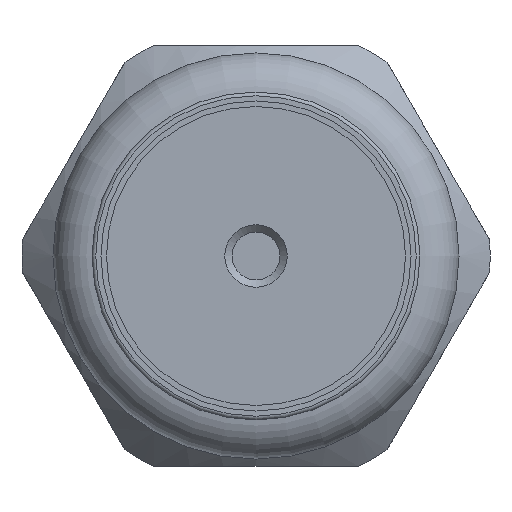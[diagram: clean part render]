
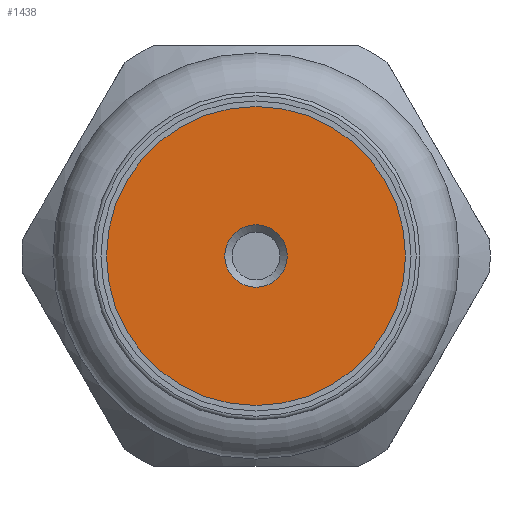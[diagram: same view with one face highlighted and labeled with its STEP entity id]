
A CAD part, left-side view. The second image highlights one B-rep face of the part: STEP entity #1438.
In plain terms, the highlighted planar face has unit normal (-1, 0, 0).
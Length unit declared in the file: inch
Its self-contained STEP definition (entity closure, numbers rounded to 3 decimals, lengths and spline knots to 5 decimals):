
#44=FACE_BOUND('',#264,.T.);
#171=FACE_OUTER_BOUND('',#263,.T.);
#263=EDGE_LOOP('',(#1239,#1240));
#264=EDGE_LOOP('',(#1241,#1242));
#496=CIRCLE('',#1657,0.39862);
#497=CIRCLE('',#1658,0.39862);
#498=CIRCLE('',#1660,0.08334);
#499=CIRCLE('',#1661,0.08334);
#642=VERTEX_POINT('',#2694);
#643=VERTEX_POINT('',#2695);
#644=VERTEX_POINT('',#2700);
#645=VERTEX_POINT('',#2701);
#841=EDGE_CURVE('',#642,#643,#496,.T.);
#842=EDGE_CURVE('',#643,#642,#497,.T.);
#844=EDGE_CURVE('',#644,#645,#498,.T.);
#845=EDGE_CURVE('',#645,#644,#499,.T.);
#1239=ORIENTED_EDGE('',*,*,#841,.T.);
#1240=ORIENTED_EDGE('',*,*,#842,.T.);
#1241=ORIENTED_EDGE('',*,*,#844,.F.);
#1242=ORIENTED_EDGE('',*,*,#845,.F.);
#1283=PLANE('',#1659);
#1438=ADVANCED_FACE('',(#171,#44),#1283,.T.);
#1657=AXIS2_PLACEMENT_3D('',#2696,#2106,#2107);
#1658=AXIS2_PLACEMENT_3D('',#2697,#2108,#2109);
#1659=AXIS2_PLACEMENT_3D('',#2699,#2111,#2112);
#1660=AXIS2_PLACEMENT_3D('',#2702,#2113,#2114);
#1661=AXIS2_PLACEMENT_3D('',#2703,#2115,#2116);
#2106=DIRECTION('center_axis',(-1.,0.,0.));
#2107=DIRECTION('ref_axis',(0.,0.866,-0.5));
#2108=DIRECTION('center_axis',(-1.,0.,0.));
#2109=DIRECTION('ref_axis',(0.,0.866,-0.5));
#2111=DIRECTION('center_axis',(-1.,0.,0.));
#2112=DIRECTION('ref_axis',(0.,0.866,-0.5));
#2113=DIRECTION('center_axis',(-1.,0.,0.));
#2114=DIRECTION('ref_axis',(0.,0.866,-0.5));
#2115=DIRECTION('center_axis',(-1.,0.,0.));
#2116=DIRECTION('ref_axis',(0.,0.866,-0.5));
#2694=CARTESIAN_POINT('',(-3.81602,-0.79102,0.17696));
#2695=CARTESIAN_POINT('',(-3.81602,-1.48145,0.57558));
#2696=CARTESIAN_POINT('Origin',(-3.81602,-1.13623,0.37627));
#2697=CARTESIAN_POINT('Origin',(-3.81602,-1.13623,0.37627));
#2699=CARTESIAN_POINT('Origin',(-3.81602,-1.06406,0.3346));
#2700=CARTESIAN_POINT('',(-3.81602,-1.06406,0.3346));
#2701=CARTESIAN_POINT('',(-3.81602,-1.20841,0.41794));
#2702=CARTESIAN_POINT('Origin',(-3.81602,-1.13623,0.37627));
#2703=CARTESIAN_POINT('Origin',(-3.81602,-1.13623,0.37627));
